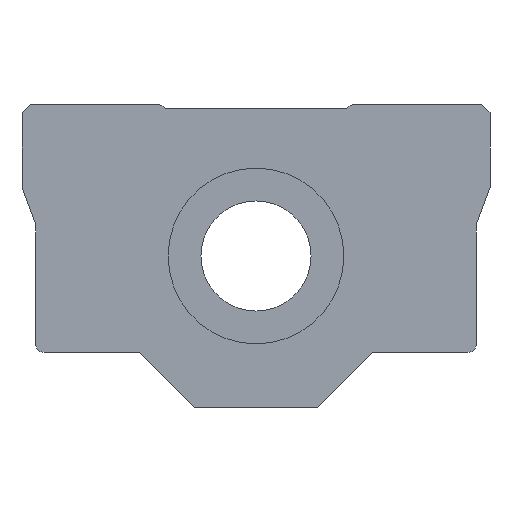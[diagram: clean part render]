
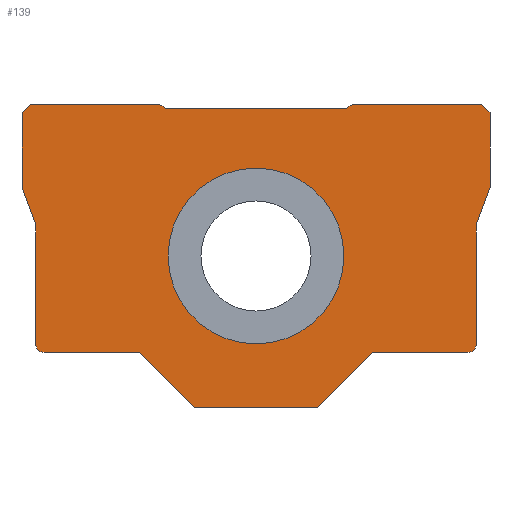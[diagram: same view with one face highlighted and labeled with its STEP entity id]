
A CAD part, left-side view. The second image highlights one B-rep face of the part: STEP entity #139.
In plain terms, the highlighted planar face has unit normal (-1, 0, 0).
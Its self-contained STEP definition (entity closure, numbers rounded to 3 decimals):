
#139 = ADVANCED_FACE( '', ( #298, #299 ), #300, .F. );
#298 = FACE_OUTER_BOUND( '', #449, .T. );
#299 = FACE_BOUND( '', #450, .T. );
#300 = PLANE( '', #451 );
#449 = EDGE_LOOP( '', ( #749, #750, #751, #752, #753, #754, #755, #756, #757, #758, #759, #760, #761, #762, #763, #764, #765, #766, #767, #768 ) );
#450 = EDGE_LOOP( '', ( #769 ) );
#451 = AXIS2_PLACEMENT_3D( '', #770, #771, #772 );
#749 = ORIENTED_EDGE( '', *, *, #802, .F. );
#750 = ORIENTED_EDGE( '', *, *, #877, .F. );
#751 = ORIENTED_EDGE( '', *, *, #837, .F. );
#752 = ORIENTED_EDGE( '', *, *, #809, .F. );
#753 = ORIENTED_EDGE( '', *, *, #862, .F. );
#754 = ORIENTED_EDGE( '', *, *, #868, .F. );
#755 = ORIENTED_EDGE( '', *, *, #795, .F. );
#756 = ORIENTED_EDGE( '', *, *, #823, .F. );
#757 = ORIENTED_EDGE( '', *, *, #776, .F. );
#758 = ORIENTED_EDGE( '', *, *, #890, .F. );
#759 = ORIENTED_EDGE( '', *, *, #781, .T. );
#760 = ORIENTED_EDGE( '', *, *, #865, .T. );
#761 = ORIENTED_EDGE( '', *, *, #831, .T. );
#762 = ORIENTED_EDGE( '', *, *, #846, .F. );
#763 = ORIENTED_EDGE( '', *, *, #819, .F. );
#764 = ORIENTED_EDGE( '', *, *, #850, .F. );
#765 = ORIENTED_EDGE( '', *, *, #872, .F. );
#766 = ORIENTED_EDGE( '', *, *, #888, .F. );
#767 = ORIENTED_EDGE( '', *, *, #814, .F. );
#768 = ORIENTED_EDGE( '', *, *, #858, .F. );
#769 = ORIENTED_EDGE( '', *, *, #884, .T. );
#770 = CARTESIAN_POINT( '', ( 0., 0., 0. ) );
#771 = DIRECTION( '', ( 1., 0., 0. ) );
#772 = DIRECTION( '', ( 0., 1., 0. ) );
#776 = EDGE_CURVE( '', #898, #900, #901, .T. );
#781 = EDGE_CURVE( '', #909, #907, #910, .T. );
#795 = EDGE_CURVE( '', #931, #933, #934, .T. );
#802 = EDGE_CURVE( '', #943, #945, #946, .T. );
#809 = EDGE_CURVE( '', #956, #958, #959, .T. );
#814 = EDGE_CURVE( '', #965, #967, #968, .T. );
#819 = EDGE_CURVE( '', #974, #976, #977, .T. );
#823 = EDGE_CURVE( '', #900, #931, #981, .T. );
#831 = EDGE_CURVE( '', #994, #992, #995, .T. );
#837 = EDGE_CURVE( '', #958, #1003, #1004, .T. );
#846 = EDGE_CURVE( '', #976, #992, #1017, .T. );
#850 = EDGE_CURVE( '', #1021, #974, #1023, .T. );
#858 = EDGE_CURVE( '', #945, #965, #1034, .T. );
#862 = EDGE_CURVE( '', #1038, #956, #1040, .T. );
#865 = EDGE_CURVE( '', #907, #994, #1043, .T. );
#868 = EDGE_CURVE( '', #933, #1038, #1046, .T. );
#872 = EDGE_CURVE( '', #1050, #1021, #1052, .T. );
#877 = EDGE_CURVE( '', #1003, #943, #1058, .T. );
#884 = EDGE_CURVE( '', #1066, #1066, #1067, .T. );
#888 = EDGE_CURVE( '', #967, #1050, #1071, .T. );
#890 = EDGE_CURVE( '', #909, #898, #1073, .T. );
#898 = VERTEX_POINT( '', #1082 );
#900 = VERTEX_POINT( '', #1085 );
#901 = LINE( '', #1086, #1087 );
#907 = VERTEX_POINT( '', #1095 );
#909 = VERTEX_POINT( '', #1098 );
#910 = LINE( '', #1099, #1100 );
#931 = VERTEX_POINT( '', #1123 );
#933 = VERTEX_POINT( '', #1126 );
#934 = LINE( '', #1127, #1128 );
#943 = VERTEX_POINT( '', #1139 );
#945 = VERTEX_POINT( '', #1142 );
#946 = LINE( '', #1143, #1144 );
#956 = VERTEX_POINT( '', #1156 );
#958 = VERTEX_POINT( '', #1159 );
#959 = LINE( '', #1160, #1161 );
#965 = VERTEX_POINT( '', #1168 );
#967 = VERTEX_POINT( '', #1171 );
#968 = CIRCLE( '', #1172, 0.6 );
#974 = VERTEX_POINT( '', #1180 );
#976 = VERTEX_POINT( '', #1183 );
#977 = LINE( '', #1184, #1185 );
#981 = LINE( '', #1191, #1192 );
#992 = VERTEX_POINT( '', #1204 );
#994 = VERTEX_POINT( '', #1207 );
#995 = LINE( '', #1208, #1209 );
#1003 = VERTEX_POINT( '', #1218 );
#1004 = LINE( '', #1219, #1220 );
#1017 = LINE( '', #1236, #1237 );
#1021 = VERTEX_POINT( '', #1242 );
#1023 = LINE( '', #1245, #1246 );
#1034 = LINE( '', #1258, #1259 );
#1038 = VERTEX_POINT( '', #1263 );
#1040 = CIRCLE( '', #1266, 0.6 );
#1043 = LINE( '', #1270, #1271 );
#1046 = LINE( '', #1275, #1276 );
#1050 = VERTEX_POINT( '', #1281 );
#1052 = LINE( '', #1284, #1285 );
#1058 = LINE( '', #1292, #1293 );
#1066 = VERTEX_POINT( '', #1303 );
#1067 = CIRCLE( '', #1304, 6.38 );
#1071 = LINE( '', #1308, #1309 );
#1073 = LINE( '', #1311, #1312 );
#1082 = CARTESIAN_POINT( '', ( 0., -16.4, 11. ) );
#1085 = CARTESIAN_POINT( '', ( 0., -17., 10.4 ) );
#1086 = CARTESIAN_POINT( '', ( 0., -16.4, 11. ) );
#1087 = VECTOR( '', #1318, 1000. );
#1095 = CARTESIAN_POINT( '', ( 0., -6.5, 10.7 ) );
#1098 = CARTESIAN_POINT( '', ( 0., -7., 11. ) );
#1099 = CARTESIAN_POINT( '', ( 0., -1.75, 7.85 ) );
#1100 = VECTOR( '', #1322, 1000. );
#1123 = CARTESIAN_POINT( '', ( 0., -17., 5. ) );
#1126 = CARTESIAN_POINT( '', ( 0., -16., 2.253 ) );
#1127 = CARTESIAN_POINT( '', ( 0., -17., 5. ) );
#1128 = VECTOR( '', #1344, 1000. );
#1139 = CARTESIAN_POINT( '', ( 0., 4.485, -11. ) );
#1142 = CARTESIAN_POINT( '', ( 0., 8.485, -7. ) );
#1143 = CARTESIAN_POINT( '', ( 0., 7.743, -7.743 ) );
#1144 = VECTOR( '', #1351, 1000. );
#1156 = CARTESIAN_POINT( '', ( 0., -15.4, -7. ) );
#1159 = CARTESIAN_POINT( '', ( 0., -8.485, -7. ) );
#1160 = CARTESIAN_POINT( '', ( 0., -15.4, -7. ) );
#1161 = VECTOR( '', #1361, 1000. );
#1168 = CARTESIAN_POINT( '', ( 0., 15.4, -7. ) );
#1171 = CARTESIAN_POINT( '', ( 0., 16., -6.4 ) );
#1172 = AXIS2_PLACEMENT_3D( '', #1367, #1368, #1369 );
#1180 = CARTESIAN_POINT( '', ( 0., 17., 10.4 ) );
#1183 = CARTESIAN_POINT( '', ( 0., 16.4, 11. ) );
#1184 = CARTESIAN_POINT( '', ( 0., 17., 10.4 ) );
#1185 = VECTOR( '', #1373, 1000. );
#1191 = CARTESIAN_POINT( '', ( 0., -17., 10.4 ) );
#1192 = VECTOR( '', #1376, 1000. );
#1204 = CARTESIAN_POINT( '', ( 0., 7., 11. ) );
#1207 = CARTESIAN_POINT( '', ( 0., 6.5, 10.7 ) );
#1208 = CARTESIAN_POINT( '', ( 0., 2., 8. ) );
#1209 = VECTOR( '', #1385, 1000. );
#1218 = CARTESIAN_POINT( '', ( 0., -4.485, -11. ) );
#1219 = CARTESIAN_POINT( '', ( 0., -7.743, -7.743 ) );
#1220 = VECTOR( '', #1393, 1000. );
#1236 = CARTESIAN_POINT( '', ( 0., 16.4, 11. ) );
#1237 = VECTOR( '', #1406, 1000. );
#1242 = CARTESIAN_POINT( '', ( 0., 17., 5. ) );
#1245 = CARTESIAN_POINT( '', ( 0., 17., 5. ) );
#1246 = VECTOR( '', #1409, 1000. );
#1258 = CARTESIAN_POINT( '', ( 0., 8.485, -7. ) );
#1259 = VECTOR( '', #1420, 1000. );
#1263 = CARTESIAN_POINT( '', ( 0., -16., -6.4 ) );
#1266 = AXIS2_PLACEMENT_3D( '', #1425, #1426, #1427 );
#1270 = CARTESIAN_POINT( '', ( 0., 3.25, 10.7 ) );
#1271 = VECTOR( '', #1429, 1000. );
#1275 = CARTESIAN_POINT( '', ( 0., -16., 2.253 ) );
#1276 = VECTOR( '', #1431, 1000. );
#1281 = CARTESIAN_POINT( '', ( 0., 16., 2.253 ) );
#1284 = CARTESIAN_POINT( '', ( 0., 16., 2.253 ) );
#1285 = VECTOR( '', #1434, 1000. );
#1292 = CARTESIAN_POINT( '', ( 0., -4.485, -11. ) );
#1293 = VECTOR( '', #1439, 1000. );
#1303 = CARTESIAN_POINT( '', ( 0., 6.38, 0. ) );
#1304 = AXIS2_PLACEMENT_3D( '', #1445, #1446, #1447 );
#1308 = CARTESIAN_POINT( '', ( 0., 16., -6.4 ) );
#1309 = VECTOR( '', #1448, 1000. );
#1311 = CARTESIAN_POINT( '', ( 0., 16.4, 11. ) );
#1312 = VECTOR( '', #1449, 1000. );
#1318 = DIRECTION( '', ( 0., -0.707, -0.707 ) );
#1322 = DIRECTION( '', ( 0., 0.857, -0.514 ) );
#1344 = DIRECTION( '', ( 0., 0.342, -0.94 ) );
#1351 = DIRECTION( '', ( 0., 0.707, 0.707 ) );
#1361 = DIRECTION( '', ( 0., 1., 0. ) );
#1367 = CARTESIAN_POINT( '', ( 0., 15.4, -6.4 ) );
#1368 = DIRECTION( '', ( 1., 0., 0. ) );
#1369 = DIRECTION( '', ( 0., 0., -1. ) );
#1373 = DIRECTION( '', ( 0., -0.707, 0.707 ) );
#1376 = DIRECTION( '', ( 0., 0., -1. ) );
#1385 = DIRECTION( '', ( 0., 0.857, 0.514 ) );
#1393 = DIRECTION( '', ( 0., 0.707, -0.707 ) );
#1406 = DIRECTION( '', ( 0., -1., 0. ) );
#1409 = DIRECTION( '', ( 0., 0., 1. ) );
#1420 = DIRECTION( '', ( 0., 1., 0. ) );
#1425 = CARTESIAN_POINT( '', ( 0., -15.4, -6.4 ) );
#1426 = DIRECTION( '', ( 1., 0., 0. ) );
#1427 = DIRECTION( '', ( 0., -1., 0. ) );
#1429 = DIRECTION( '', ( 0., 1., 0. ) );
#1431 = DIRECTION( '', ( 0., 0., -1. ) );
#1434 = DIRECTION( '', ( 0., 0.342, 0.94 ) );
#1439 = DIRECTION( '', ( 0., 1., 0. ) );
#1445 = CARTESIAN_POINT( '', ( 0., 0., 0. ) );
#1446 = DIRECTION( '', ( 1., 0., 0. ) );
#1447 = DIRECTION( '', ( 0., 1., 0. ) );
#1448 = DIRECTION( '', ( 0., 0., 1. ) );
#1449 = DIRECTION( '', ( 0., -1., 0. ) );
